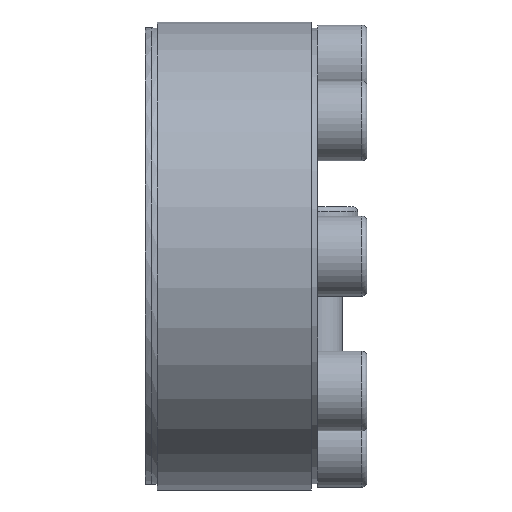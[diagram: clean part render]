
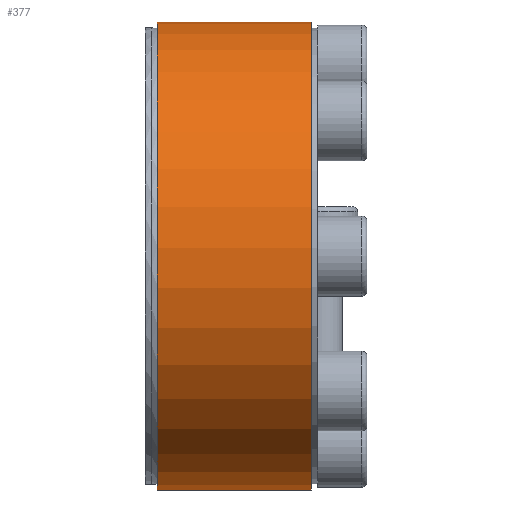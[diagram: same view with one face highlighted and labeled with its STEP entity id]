
A CAD part, left-side view. The second image highlights one B-rep face of the part: STEP entity #377.
In plain terms, the highlighted cylindrical face has radius 38 mm (diameter 76 mm), a partial arc.
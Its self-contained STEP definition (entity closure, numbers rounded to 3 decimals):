
#377 = ADVANCED_FACE( '', ( #586 ), #587, .T. );
#586 = FACE_OUTER_BOUND( '', #730, .T. );
#587 = CYLINDRICAL_SURFACE( '', #731, 38. );
#730 = EDGE_LOOP( '', ( #899, #900, #901, #902 ) );
#731 = AXIS2_PLACEMENT_3D( '', #903, #904, #905 );
#899 = ORIENTED_EDGE( '', *, *, #1247, .F. );
#900 = ORIENTED_EDGE( '', *, *, #1248, .T. );
#901 = ORIENTED_EDGE( '', *, *, #1249, .T. );
#902 = ORIENTED_EDGE( '', *, *, #1250, .F. );
#903 = CARTESIAN_POINT( '', ( 0., -60., 0. ) );
#904 = DIRECTION( '', ( 0., 1., 0. ) );
#905 = DIRECTION( '', ( 0., 0., -1. ) );
#1247 = EDGE_CURVE( '', #1383, #1384, #1385, .T. );
#1248 = EDGE_CURVE( '', #1383, #1386, #1387, .F. );
#1249 = EDGE_CURVE( '', #1386, #1388, #1389, .T. );
#1250 = EDGE_CURVE( '', #1384, #1388, #1390, .F. );
#1383 = VERTEX_POINT( '', #1493 );
#1384 = VERTEX_POINT( '', #1494 );
#1385 = CIRCLE( '', #1495, 38. );
#1386 = VERTEX_POINT( '', #1496 );
#1387 = LINE( '', #1497, #1498 );
#1388 = VERTEX_POINT( '', #1499 );
#1389 = CIRCLE( '', #1500, 38. );
#1390 = LINE( '', #1501, #1502 );
#1493 = CARTESIAN_POINT( '', ( 13.846, 1., 35.388 ) );
#1494 = CARTESIAN_POINT( '', ( 15.232, 1., 34.814 ) );
#1495 = AXIS2_PLACEMENT_3D( '', #1650, #1651, #1652 );
#1496 = CARTESIAN_POINT( '', ( 13.846, 26., 35.388 ) );
#1497 = CARTESIAN_POINT( '', ( 13.846, -60., 35.388 ) );
#1498 = VECTOR( '', #1653, 1000. );
#1499 = CARTESIAN_POINT( '', ( 15.232, 26., 34.814 ) );
#1500 = AXIS2_PLACEMENT_3D( '', #1654, #1655, #1656 );
#1501 = CARTESIAN_POINT( '', ( 15.232, -60., 34.814 ) );
#1502 = VECTOR( '', #1657, 1000. );
#1650 = CARTESIAN_POINT( '', ( 0., 1., 0. ) );
#1651 = DIRECTION( '', ( 0., -1., 0. ) );
#1652 = DIRECTION( '', ( 0., 0., -1. ) );
#1653 = DIRECTION( '', ( 0., -1., 0. ) );
#1654 = CARTESIAN_POINT( '', ( 0., 26., 0. ) );
#1655 = DIRECTION( '', ( 0., -1., 0. ) );
#1656 = DIRECTION( '', ( 0., 0., -1. ) );
#1657 = DIRECTION( '', ( 0., -1., 0. ) );
